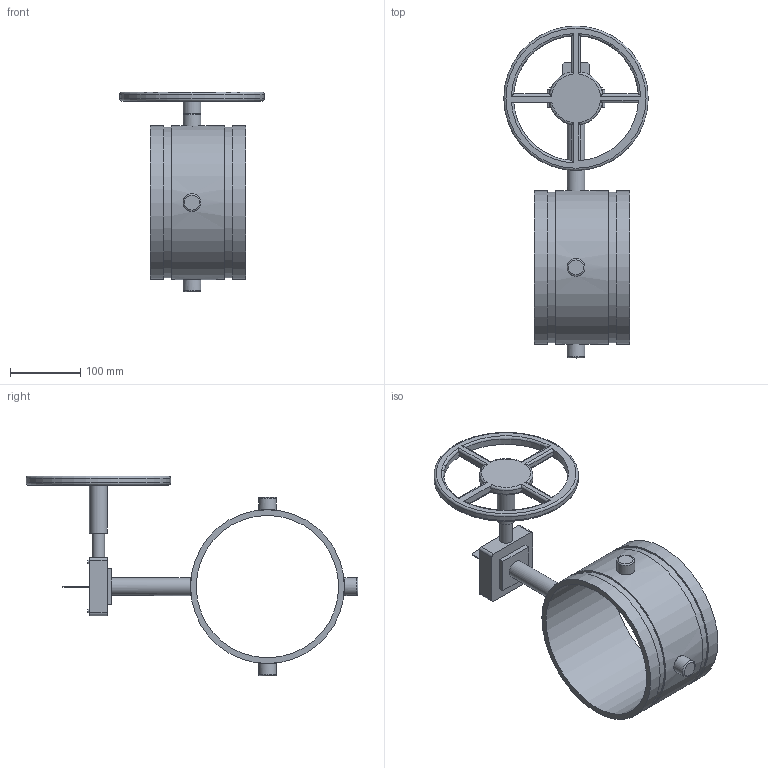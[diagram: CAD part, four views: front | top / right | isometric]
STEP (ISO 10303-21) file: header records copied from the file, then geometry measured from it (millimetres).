
FILE_DESCRIPTION(/* description */ ('VIC FIRELOCK BUTTERFLY VALVE SERIES 707-C W/ WEATHERPROOF ACTUATOR FOR 300 PSI','CAx-IF Rec.Pracs.---Representation and Presentation of Product Manufacturing Information (PMI)---4.0---2014-10-13'),/* implementation_level */ '2;1');
FILE_NAME(/* name */ 'C:\Users\Vjadhav\AppData\Roaming\Autodesk\ApplicationPlugins\Back Up\Victaulic_FP-FireLock_Valve Butterfly_Series 707C (OGS)-Closed\Victaulic_FP-FireLock_Valve Butterfly_Series 707C (OGS)-Closed_8 (200).stp',/* time_stamp */ '2020-07-20T15:15:08+06:00',/* author */ ('kkamble'),/* organization */ ('Victaulic'),/* preprocessor_version */ 'ST-DEVELOPER v17.2',/* originating_system */ 'Autodesk Inventor 2019',/* authorisation */ '');
FILE_SCHEMA (('AP242_MANAGED_MODEL_BASED_3D_ENGINEERING_MIM_LF { 1 0 10303 442 1 1 4 }'));
Length unit declared in the file: inch
Products named in the file (1): 707C-08.0
Bounding box: 205.74 x 472.44 x 284.23 mm (x, y, z)
Volume: 1208706.3 mm3; surface area: 291164 mm2
Topology: 1 solids, 1 shells, 122 faces, 312 edges, 209 vertices
Faces by surface type: plane 66, cylinder 40, torus 16
Full cylindrical faces by diameter (mm): 17.78 x1, 25.4 x5, 202.717 x1, 205.74 x1, 214.401 x2, 219.075 x3
Entity records: 4445 total; most frequent: CARTESIAN_POINT 1165, DIRECTION 637, ORIENTED_EDGE 624, EDGE_CURVE 312, AXIS2_PLACEMENT_3D 229, VERTEX_POINT 209, LINE 179, VECTOR 179
